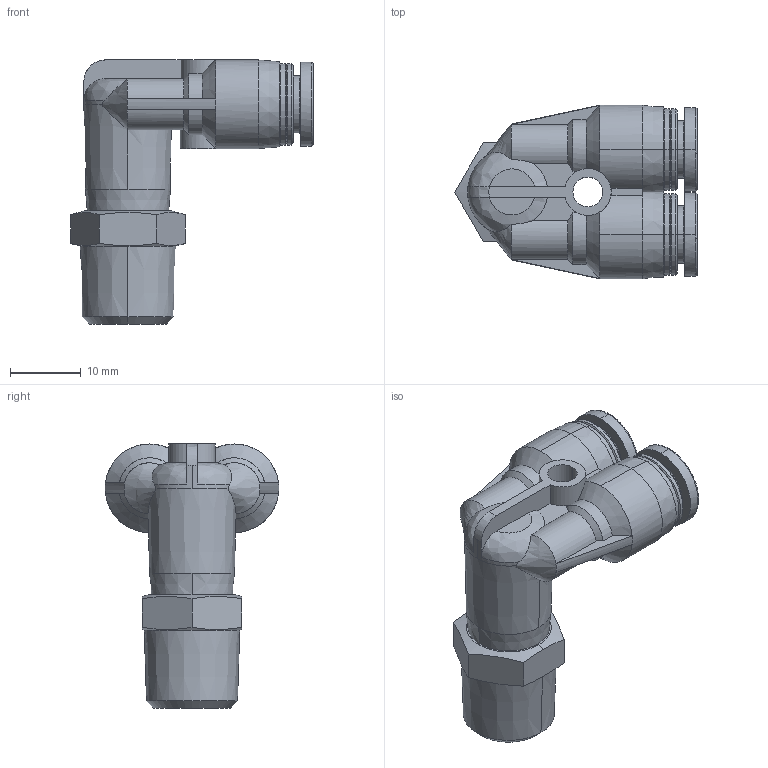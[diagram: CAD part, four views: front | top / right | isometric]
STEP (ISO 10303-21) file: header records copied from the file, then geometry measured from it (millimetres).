
FILE_DESCRIPTION (( 'STEP AP214' ), '1' );
FILE_NAME ('APAX6-02.STEP', '2019-12-05T03:41:46', ( '微软用户' ), ( '微软中国' ), 'SwSTEP 2.0', 'SolidWorks 2016', '' );
FILE_SCHEMA (( 'AUTOMOTIVE_DESIGN' ));
Length unit declared in the file: millimetre
Products named in the file (1): APAX6-02
Bounding box: 34.23 x 24.5 x 37.25 mm (x, y, z)
Volume: 7963.1 mm3; surface area: 4559.7 mm2
Topology: 1 solids, 2 shells, 148 faces, 353 edges, 218 vertices
Faces by surface type: cylinder 48, cone 47, plane 38, bspline 15
Entity records: 5226 total; most frequent: CARTESIAN_POINT 1876, ORIENTED_EDGE 706, DIRECTION 687, EDGE_CURVE 353, AXIS2_PLACEMENT_3D 285, VERTEX_POINT 218, EDGE_LOOP 159, CIRCLE 151
